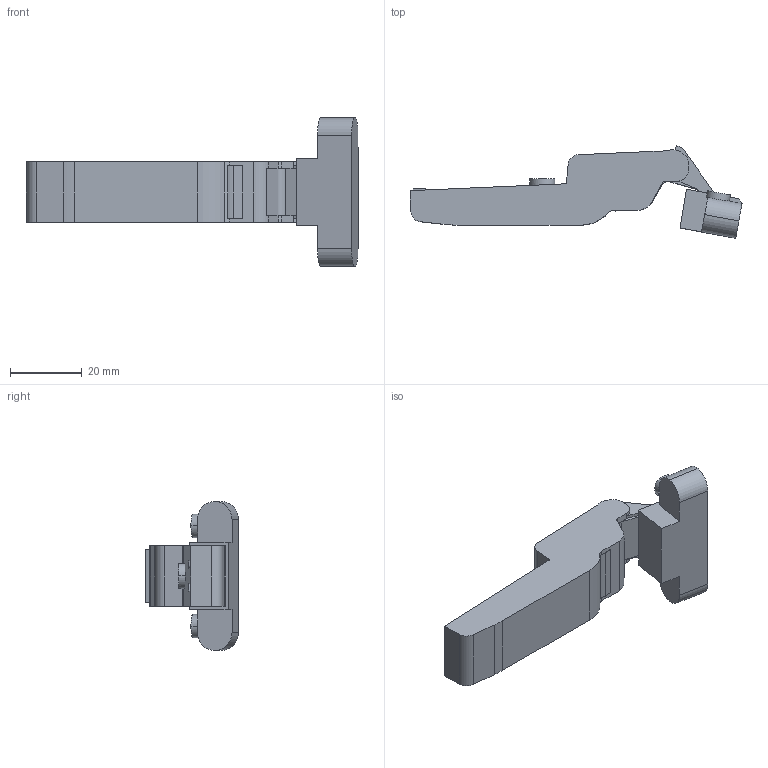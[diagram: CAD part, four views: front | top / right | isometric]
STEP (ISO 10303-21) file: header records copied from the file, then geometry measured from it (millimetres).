
FILE_DESCRIPTION (( 'STEP AP203' ), '1' );
FILE_NAME ('C82B278F-DTC 3D open.STEP', '2024-09-09T05:26:44', ( '微软用户' ), ( '微软中国' ), 'SwSTEP 2.0', 'SolidWorks 2021', '' );
FILE_SCHEMA (( 'CONFIG_CONTROL_DESIGN' ));
Length unit declared in the file: millimetre
Products named in the file (1): C82B278F-DTC 3D open
Bounding box: 92.85 x 25.88 x 41.6 mm (x, y, z)
Volume: 22450.6 mm3; surface area: 7471.2 mm2
Topology: 1 solids, 1 shells, 174 faces, 465 edges, 308 vertices
Faces by surface type: plane 86, bspline 49, cylinder 39
Entity records: 8391 total; most frequent: CARTESIAN_POINT 4231, ORIENTED_EDGE 930, DIRECTION 703, EDGE_CURVE 465, VERTEX_POINT 308, VECTOR 269, LINE 269, AXIS2_PLACEMENT_3D 217
